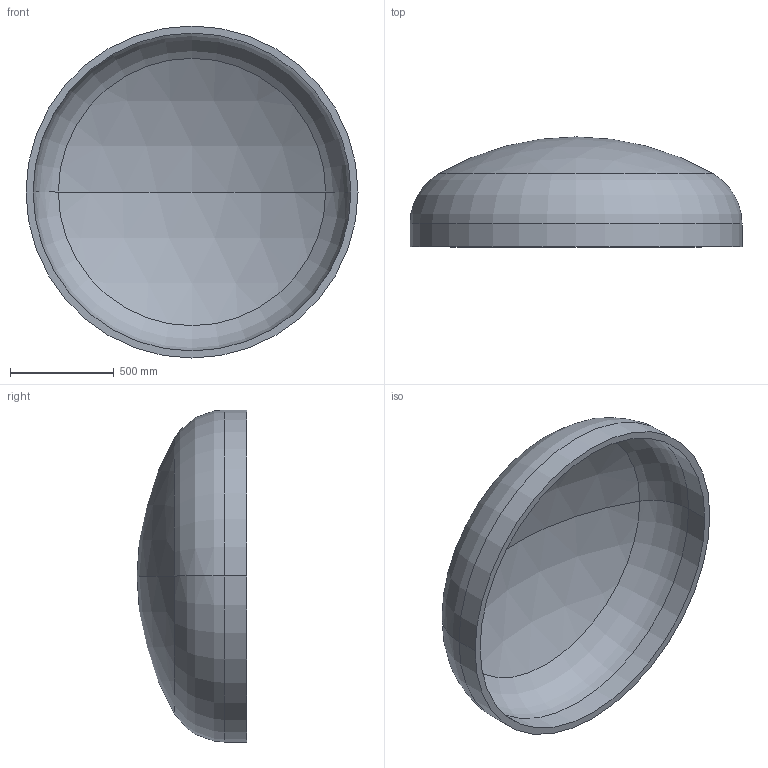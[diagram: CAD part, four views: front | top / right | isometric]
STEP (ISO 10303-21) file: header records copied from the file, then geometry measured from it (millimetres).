
FILE_DESCRIPTION (( 'STEP AP203' ), '1' );
FILE_NAME ('DIN 28013 Korbbogenform_-_Boden DIN 28013 - 1600 x 110 - I - s=34.step', '2016-07-01T11:13:26', ( '' ), ( '' ), 'SwSTEP 2.0', 'SolidWorks 2013', '' );
FILE_SCHEMA (( 'CONFIG_CONTROL_DESIGN' ));
Length unit declared in the file: millimetre
Products named in the file (1): DIN 28013 Korbbogenform_-_Boden DIN 28013 - 1600 x 110 - I - s=34
Bounding box: 1600 x 529.69 x 1600 mm (x, y, z)
Volume: 110365152 mm3; surface area: 6661757.8 mm2
Topology: 1 solids, 1 shells, 13 faces, 24 edges, 14 vertices
Faces by surface type: torus 4, cylinder 4, sphere 4, plane 1
Entity records: 407 total; most frequent: DIRECTION 72, CARTESIAN_POINT 52, ORIENTED_EDGE 48, AXIS2_PLACEMENT_3D 34, EDGE_CURVE 24, CIRCLE 20, EDGE_LOOP 14, VERTEX_POINT 14
